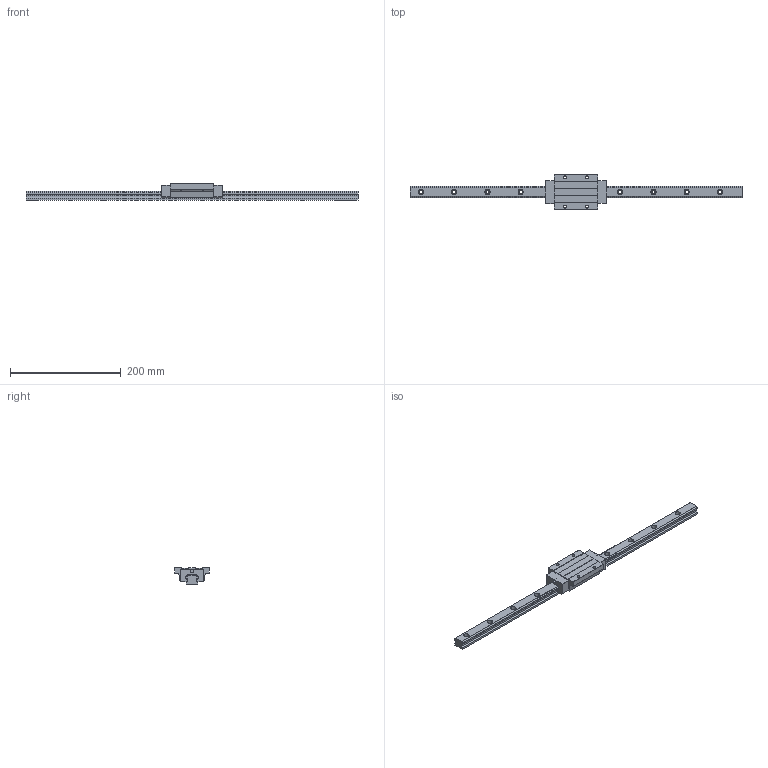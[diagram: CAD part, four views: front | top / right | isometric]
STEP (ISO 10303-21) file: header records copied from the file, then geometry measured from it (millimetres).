
FILE_DESCRIPTION (( 'STEP AP203' ), '1' );
FILE_NAME ('TRH20FE-WW.STEP', '2023-01-18T09:03:32', ( '' ), ( '' ), 'SwSTEP 2.0', 'SolidWorks 2019', '' );
FILE_SCHEMA (( 'CONFIG_CONTROL_DESIGN' ));
Length unit declared in the file: millimetre
Products named in the file (1): TRH20FE-WW
Bounding box: 600 x 63 x 30 mm (x, y, z)
Volume: 272678 mm3; surface area: 72470.5 mm2
Topology: 2 solids, 2 shells, 166 faces, 438 edges, 280 vertices
Faces by surface type: cylinder 84, plane 78, sphere 4
Entity records: 5515 total; most frequent: CARTESIAN_POINT 1191, DIRECTION 910, ORIENTED_EDGE 868, EDGE_CURVE 434, AXIS2_PLACEMENT_3D 327, VERTEX_POINT 280, LINE 256, VECTOR 256
